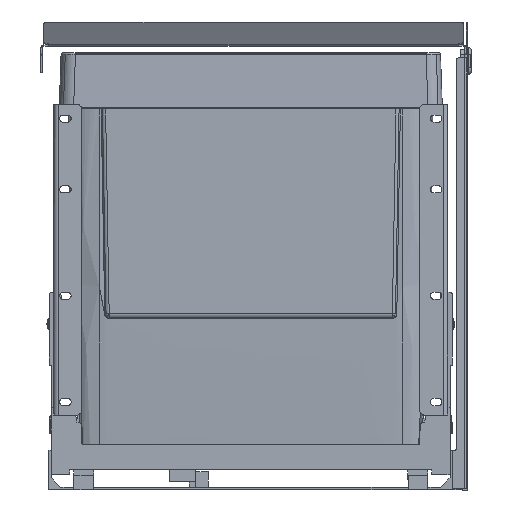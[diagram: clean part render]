
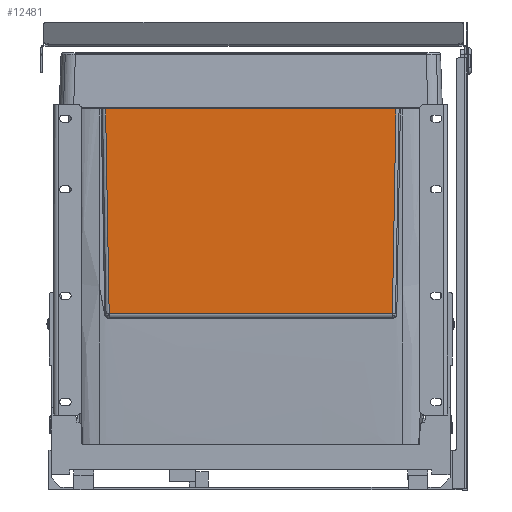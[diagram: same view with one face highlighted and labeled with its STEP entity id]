
A CAD part, front view. The second image highlights one B-rep face of the part: STEP entity #12481.
In plain terms, the highlighted planar face has unit normal (0, -1, -0.018).
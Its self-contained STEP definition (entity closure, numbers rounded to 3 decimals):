
#12481=ADVANCED_FACE('',(#22244),#22245,.T.);
#22244=FACE_OUTER_BOUND('',#36357,.T.);
#22245=PLANE('',#36358);
#36357=EDGE_LOOP('',(#52421,#52422,#52423,#52424));
#36358=AXIS2_PLACEMENT_3D('',#52425,#52426,#52427);
#52421=ORIENTED_EDGE('',*,*,#70381,.F.);
#52422=ORIENTED_EDGE('',*,*,#70387,.F.);
#52423=ORIENTED_EDGE('',*,*,#69067,.F.);
#52424=ORIENTED_EDGE('',*,*,#70392,.F.);
#52425=CARTESIAN_POINT('',(54.344,4.56,345.094));
#52426=DIRECTION('',(0.,-1.,-0.017));
#52427=DIRECTION('',(-1.0,0.,0.));
#69067=EDGE_CURVE('',#78129,#78131,#78132,.T.);
#70381=EDGE_CURVE('',#78122,#80113,#80114,.T.);
#70387=EDGE_CURVE('',#78131,#78122,#80121,.T.);
#70392=EDGE_CURVE('',#80113,#78129,#80127,.T.);
#78122=VERTEX_POINT('',#85267);
#78129=VERTEX_POINT('',#85275);
#78131=VERTEX_POINT('',#85277);
#78132=LINE('',#85278,#85279);
#80113=VERTEX_POINT('',#88053);
#80114=LINE('',#88054,#88055);
#80121=LINE('',#88076,#88077);
#80127=LINE('',#88097,#88098);
#85267=CARTESIAN_POINT('',(61.591,7.808,159.024));
#85275=CARTESIAN_POINT('',(320.657,4.56,345.094));
#85277=CARTESIAN_POINT('',(317.409,7.808,159.024));
#85278=CARTESIAN_POINT('',(320.617,4.6,342.806));
#85279=VECTOR('',#95513,10.0);
#88053=CARTESIAN_POINT('',(58.343,4.56,345.094));
#88054=CARTESIAN_POINT('',(58.393,4.61,342.233));
#88055=VECTOR('',#97128,10.0);
#88076=CARTESIAN_POINT('',(121.922,7.808,159.024));
#88077=VECTOR('',#97133,10.0);
#88097=CARTESIAN_POINT('',(121.922,4.56,345.094));
#88098=VECTOR('',#97135,10.0);
#95513=DIRECTION('',(-0.017,0.017,-1.));
#97128=DIRECTION('',(-0.017,-0.017,1.));
#97133=DIRECTION('',(-1.0,0.,0.));
#97135=DIRECTION('',(1.0,0.,0.));
